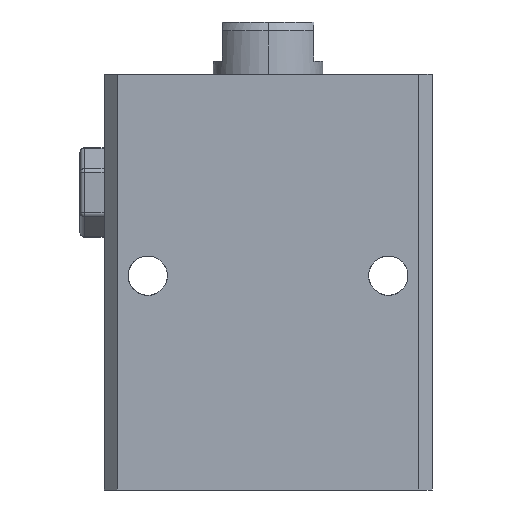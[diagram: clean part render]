
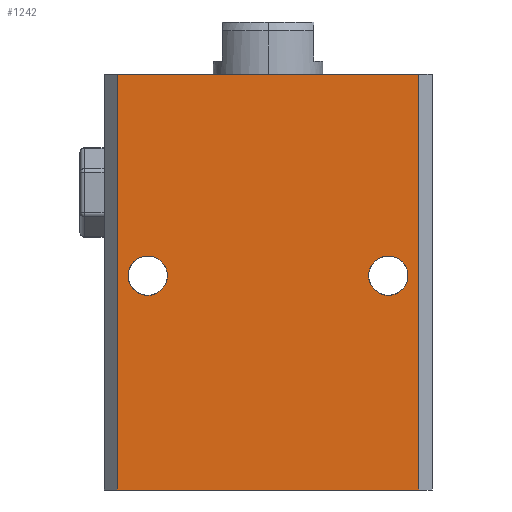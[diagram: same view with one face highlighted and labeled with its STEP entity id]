
A CAD part, left-side view. The second image highlights one B-rep face of the part: STEP entity #1242.
In plain terms, the highlighted planar face has unit normal (-1, 0, 0).
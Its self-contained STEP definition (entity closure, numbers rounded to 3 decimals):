
#48 = CARTESIAN_POINT ( 'NONE',  ( -27.5, -34.5, 95. ) ) ;
#58 = DIRECTION ( 'NONE',  ( -1., 0., 0. ) ) ;
#99 = CARTESIAN_POINT ( 'NONE',  ( -27.5, 23., 49. ) ) ;
#144 = CARTESIAN_POINT ( 'NONE',  ( -27.5, 34.5, 95. ) ) ;
#168 = EDGE_CURVE ( 'NONE', #686, #1633, #1451, .T. ) ;
#169 = CARTESIAN_POINT ( 'NONE',  ( -27.5, 27.5, 49. ) ) ;
#186 = CARTESIAN_POINT ( 'NONE',  ( -27.5, -34.5, 95. ) ) ;
#208 = DIRECTION ( 'NONE',  ( 0., 0., -1. ) ) ;
#221 = VERTEX_POINT ( 'NONE', #186 ) ;
#244 = CARTESIAN_POINT ( 'NONE',  ( -27.5, -23., 49. ) ) ;
#340 = VERTEX_POINT ( 'NONE', #741 ) ;
#362 = AXIS2_PLACEMENT_3D ( 'NONE', #1964, #1941, #1951 ) ;
#431 = DIRECTION ( 'NONE',  ( 0., 1., 0. ) ) ;
#449 = DIRECTION ( 'NONE',  ( 0., -1., 0. ) ) ;
#485 = VECTOR ( 'NONE', #1886, 1000. ) ;
#544 = VECTOR ( 'NONE', #208, 1000. ) ;
#686 = VERTEX_POINT ( 'NONE', #1227 ) ;
#692 = CARTESIAN_POINT ( 'NONE',  ( -27.5, -32., 49. ) ) ;
#741 = CARTESIAN_POINT ( 'NONE',  ( -27.5, -34.5, 0. ) ) ;
#758 = CARTESIAN_POINT ( 'NONE',  ( -27.5, 34.5, 0. ) ) ;
#774 = EDGE_LOOP ( 'NONE', ( #2861, #2707 ) ) ;
#834 = DIRECTION ( 'NONE',  ( 1., 0., 0. ) ) ;
#897 = AXIS2_PLACEMENT_3D ( 'NONE', #2761, #1506, #1684 ) ;
#928 = DIRECTION ( 'NONE',  ( 0., -1., 0. ) ) ;
#1061 = VERTEX_POINT ( 'NONE', #1862 ) ;
#1063 = EDGE_CURVE ( 'NONE', #1061, #221, #1072, .T. ) ;
#1072 = LINE ( 'NONE', #2214, #2040 ) ;
#1117 = LINE ( 'NONE', #758, #2272 ) ;
#1203 = CARTESIAN_POINT ( 'NONE',  ( -27.5, 34.5, 95. ) ) ;
#1227 = CARTESIAN_POINT ( 'NONE',  ( -27.5, 32., 49. ) ) ;
#1241 = EDGE_CURVE ( 'NONE', #1633, #686, #2568, .T. ) ;
#1242 = ADVANCED_FACE ( 'NONE', ( #2818, #2827, #2085 ), #2793, .F. ) ;
#1313 = ORIENTED_EDGE ( 'NONE', *, *, #1565, .F. ) ;
#1451 = CIRCLE ( 'NONE', #2192, 4.5 ) ;
#1506 = DIRECTION ( 'NONE',  ( -1., 0., 0. ) ) ;
#1527 = CIRCLE ( 'NONE', #897, 4.5 ) ;
#1565 = EDGE_CURVE ( 'NONE', #1664, #1635, #1527, .T. ) ;
#1633 = VERTEX_POINT ( 'NONE', #99 ) ;
#1635 = VERTEX_POINT ( 'NONE', #244 ) ;
#1664 = VERTEX_POINT ( 'NONE', #692 ) ;
#1684 = DIRECTION ( 'NONE',  ( 0., -1., 0. ) ) ;
#1733 = VERTEX_POINT ( 'NONE', #1782 ) ;
#1756 = AXIS2_PLACEMENT_3D ( 'NONE', #169, #58, #449 ) ;
#1782 = CARTESIAN_POINT ( 'NONE',  ( -27.5, 34.5, 0. ) ) ;
#1853 = EDGE_CURVE ( 'NONE', #221, #340, #2393, .T. ) ;
#1862 = CARTESIAN_POINT ( 'NONE',  ( -27.5, 34.5, 95. ) ) ;
#1886 = DIRECTION ( 'NONE',  ( 0., 0., -1. ) ) ;
#1928 = EDGE_CURVE ( 'NONE', #1733, #340, #1117, .T. ) ;
#1941 = DIRECTION ( 'NONE',  ( -1., 0., 0. ) ) ;
#1951 = DIRECTION ( 'NONE',  ( 0., -1., 0. ) ) ;
#1964 = CARTESIAN_POINT ( 'NONE',  ( -27.5, -27.5, 49. ) ) ;
#2040 = VECTOR ( 'NONE', #2755, 1000. ) ;
#2085 = FACE_OUTER_BOUND ( 'NONE', #2320, .T. ) ;
#2143 = EDGE_CURVE ( 'NONE', #1635, #1664, #2432, .T. ) ;
#2192 = AXIS2_PLACEMENT_3D ( 'NONE', #2821, #2879, #2902 ) ;
#2213 = AXIS2_PLACEMENT_3D ( 'NONE', #144, #834, #431 ) ;
#2214 = CARTESIAN_POINT ( 'NONE',  ( -27.5, 34.5, 95. ) ) ;
#2272 = VECTOR ( 'NONE', #928, 1000. ) ;
#2320 = EDGE_LOOP ( 'NONE', ( #2634, #2837, #2675, #2573 ) ) ;
#2347 = LINE ( 'NONE', #1203, #485 ) ;
#2362 = EDGE_CURVE ( 'NONE', #1061, #1733, #2347, .T. ) ;
#2393 = LINE ( 'NONE', #48, #544 ) ;
#2432 = CIRCLE ( 'NONE', #362, 4.5 ) ;
#2568 = CIRCLE ( 'NONE', #1756, 4.5 ) ;
#2573 = ORIENTED_EDGE ( 'NONE', *, *, #2362, .T. ) ;
#2634 = ORIENTED_EDGE ( 'NONE', *, *, #1928, .T. ) ;
#2675 = ORIENTED_EDGE ( 'NONE', *, *, #1063, .F. ) ;
#2678 = ORIENTED_EDGE ( 'NONE', *, *, #2143, .F. ) ;
#2707 = ORIENTED_EDGE ( 'NONE', *, *, #168, .F. ) ;
#2755 = DIRECTION ( 'NONE',  ( 0., -1., 0. ) ) ;
#2761 = CARTESIAN_POINT ( 'NONE',  ( -27.5, -27.5, 49. ) ) ;
#2793 = PLANE ( 'NONE',  #2213 ) ;
#2811 = EDGE_LOOP ( 'NONE', ( #1313, #2678 ) ) ;
#2818 = FACE_BOUND ( 'NONE', #2811, .T. ) ;
#2821 = CARTESIAN_POINT ( 'NONE',  ( -27.5, 27.5, 49. ) ) ;
#2827 = FACE_BOUND ( 'NONE', #774, .T. ) ;
#2837 = ORIENTED_EDGE ( 'NONE', *, *, #1853, .F. ) ;
#2861 = ORIENTED_EDGE ( 'NONE', *, *, #1241, .F. ) ;
#2879 = DIRECTION ( 'NONE',  ( -1., 0., 0. ) ) ;
#2902 = DIRECTION ( 'NONE',  ( 0., -1., 0. ) ) ;
